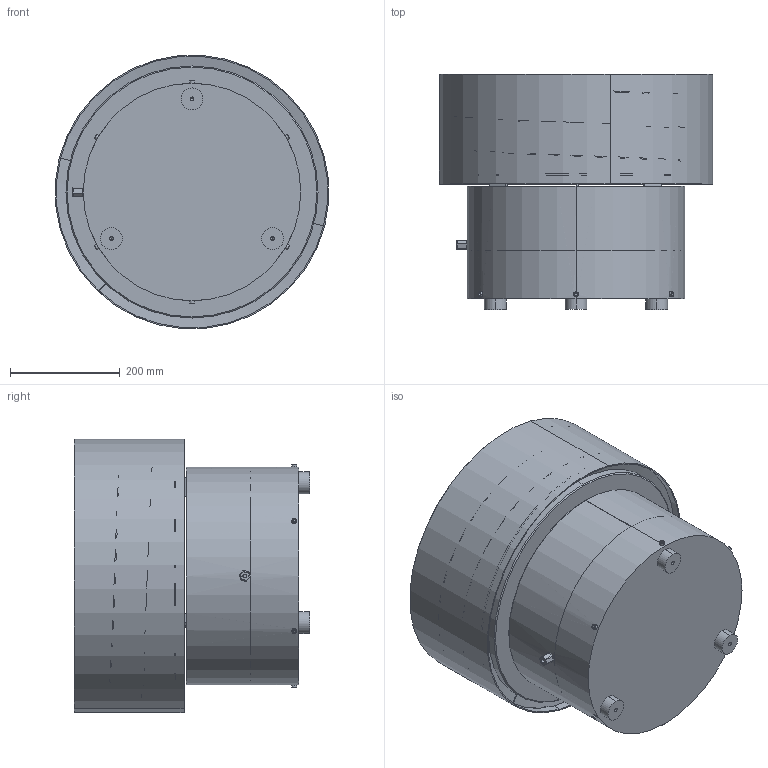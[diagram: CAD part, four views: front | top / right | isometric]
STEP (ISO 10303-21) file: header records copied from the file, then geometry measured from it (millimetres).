
FILE_DESCRIPTION (( 'STEP AP214' ), '1' );
FILE_NAME ('PW500_Q500x250_PRAWY_WIBRAMET.STEP', '2020-10-27T10:53:56', ( '' ), ( '' ), 'SwSTEP 2.0', 'SolidWorks 2017', '' );
FILE_SCHEMA (( 'AUTOMOTIVE_DESIGN' ));
Length unit declared in the file: millimetre
Products named in the file (5): PW500_Q500x250_PRAWY_WIBRAMET; socket head cap screw_iso_ISO 4762 M16 x 50 - 50N; Q500x200P-60-35; PW500-00.22[Podk³adka]; PW500_WIBRAMET
Assembly tree (4 placements, depth 2):
  PW500_Q500x250_PRAWY_WIBRAMET
    PW500_WIBRAMET
    Q500x200P-60-35
    PW500-00.22[Podk³adka]
    socket head cap screw_iso_ISO 4762 M16 x 50 - 50N
Bounding box: 498.51 x 429.12 x 498.51 mm (x, y, z)
Volume: 15675368 mm3; surface area: 2352424.2 mm2
Topology: 5 solids, 5 shells, 234 faces, 537 edges, 330 vertices
Faces by surface type: plane 101, cylinder 67, cone 26, bspline 18, torus 16, sphere 6
Entity records: 10231 total; most frequent: CARTESIAN_POINT 4034, DIRECTION 1111, ORIENTED_EDGE 1050, EDGE_CURVE 525, AXIS2_PLACEMENT_3D 414, VERTEX_POINT 328, VECTOR 283, LINE 283
